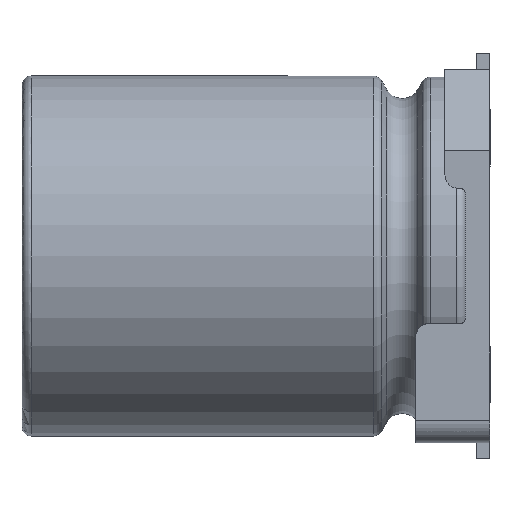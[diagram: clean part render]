
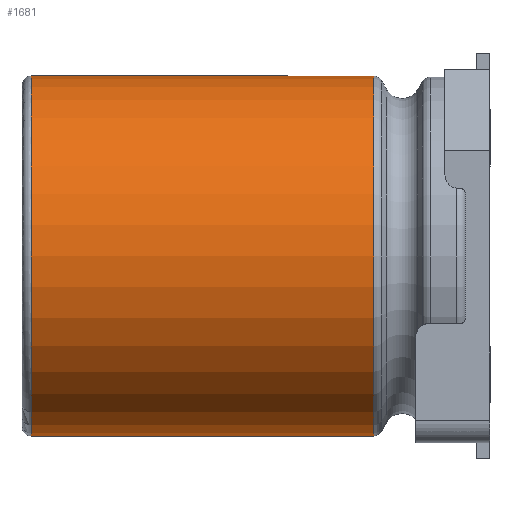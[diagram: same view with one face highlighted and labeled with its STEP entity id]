
A CAD part, left-side view. The second image highlights one B-rep face of the part: STEP entity #1681.
In plain terms, the highlighted cylindrical face has radius 4 mm (diameter 8 mm), a full revolution.
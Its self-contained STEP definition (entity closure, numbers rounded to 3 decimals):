
#130 = EDGE_LOOP ( 'NONE', ( #3539 ) ) ;
#195 = AXIS2_PLACEMENT_3D ( 'NONE', #1278, #2923, #687 ) ;
#508 = ORIENTED_EDGE ( 'NONE', *, *, #3026, .T. ) ;
#665 = CYLINDRICAL_SURFACE ( 'NONE', #2615, 4. ) ;
#687 = DIRECTION ( 'NONE',  ( 0., 0., -1. ) ) ;
#980 = CIRCLE ( 'NONE', #3746, 4. ) ;
#999 = CIRCLE ( 'NONE', #195, 4. ) ;
#1278 = CARTESIAN_POINT ( 'NONE',  ( 0., 9.65, 0. ) ) ;
#1282 = VERTEX_POINT ( 'NONE', #2291 ) ;
#1445 = CARTESIAN_POINT ( 'NONE',  ( 0., 2.035, -4. ) ) ;
#1583 = FACE_OUTER_BOUND ( 'NONE', #130, .T. ) ;
#1681 = ADVANCED_FACE ( 'NONE', ( #3317, #1583 ), #665, .T. ) ;
#1851 = VERTEX_POINT ( 'NONE', #1445 ) ;
#1971 = DIRECTION ( 'NONE',  ( 0., 0., -1. ) ) ;
#2291 = CARTESIAN_POINT ( 'NONE',  ( 0., 9.65, -4. ) ) ;
#2608 = CARTESIAN_POINT ( 'NONE',  ( 0., 0., 0. ) ) ;
#2615 = AXIS2_PLACEMENT_3D ( 'NONE', #2608, #2651, #3230 ) ;
#2651 = DIRECTION ( 'NONE',  ( 0., -1., 0. ) ) ;
#2923 = DIRECTION ( 'NONE',  ( 0., -1., 0. ) ) ;
#3026 = EDGE_CURVE ( 'NONE', #1282, #1282, #999, .T. ) ;
#3230 = DIRECTION ( 'NONE',  ( 0., 0., -1. ) ) ;
#3317 = FACE_OUTER_BOUND ( 'NONE', #3784, .T. ) ;
#3539 = ORIENTED_EDGE ( 'NONE', *, *, #3727, .F. ) ;
#3664 = CARTESIAN_POINT ( 'NONE',  ( 0., 2.035, 0. ) ) ;
#3727 = EDGE_CURVE ( 'NONE', #1851, #1851, #980, .T. ) ;
#3746 = AXIS2_PLACEMENT_3D ( 'NONE', #3664, #3929, #1971 ) ;
#3784 = EDGE_LOOP ( 'NONE', ( #508 ) ) ;
#3929 = DIRECTION ( 'NONE',  ( 0., -1., 0. ) ) ;
